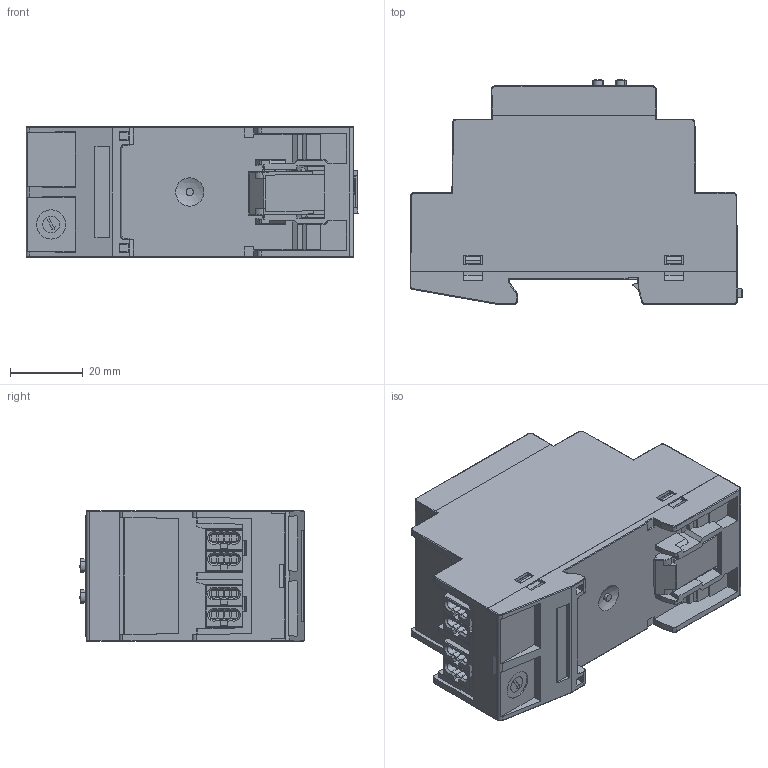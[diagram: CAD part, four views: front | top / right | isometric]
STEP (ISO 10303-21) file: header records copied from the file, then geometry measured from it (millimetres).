
FILE_DESCRIPTION(/* description */ (''),/* implementation_level */ '2;1');
FILE_NAME(/* name */ 'KNX_IP_BAOS_777.stp',/* time_stamp */ '2020-10-29T14:25:38+01:00',/* author */ (''),/* organization */ (''),/* preprocessor_version */ 'ST-DEVELOPER v18.1',/* originating_system */ 'Autodesk Inventor 2021',/* authorisation */ '');
FILE_SCHEMA (('AUTOMOTIVE_DESIGN { 1 0 10303 214 3 1 1 }'));
Length unit declared in the file: millimetre
Products named in the file (1): KNX_IP_BAOS_777
Bounding box: 91.03 x 61.53 x 35.8 mm (x, y, z)
Volume: 140269.6 mm3; surface area: 26042.8 mm2
Topology: 1 solids, 3 shells, 1307 faces, 3513 edges, 2229 vertices
Faces by surface type: plane 837, cylinder 316, cone 43, torus 41, bspline 39, sphere 31
Full cylindrical faces by diameter (mm): 2 x1, 3.138 x1, 4.6 x1
Entity records: 43185 total; most frequent: CARTESIAN_POINT 9249, ORIENTED_EDGE 6966, DIRECTION 6476, EDGE_CURVE 3483, LINE 2564, VECTOR 2564, VERTEX_POINT 2229, AXIS2_PLACEMENT_3D 1956
